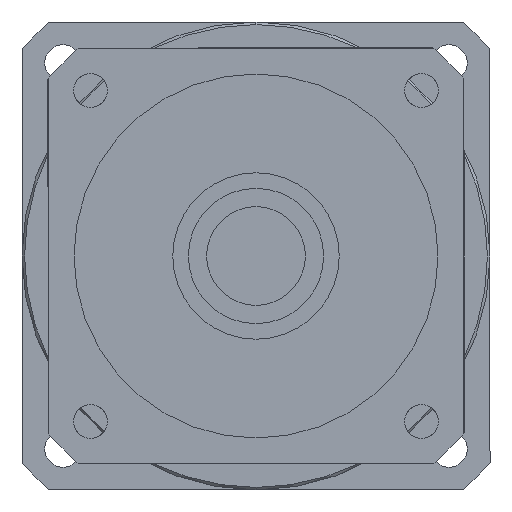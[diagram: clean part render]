
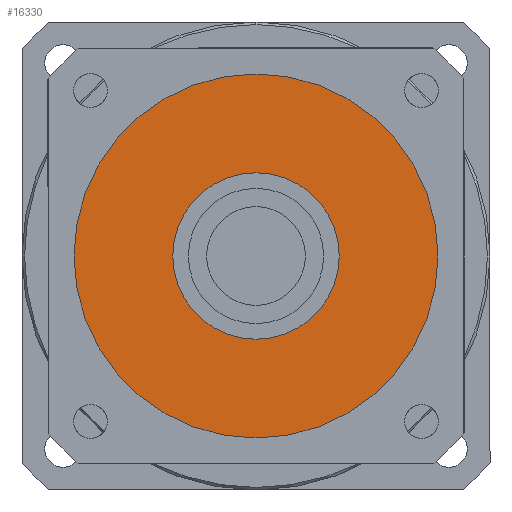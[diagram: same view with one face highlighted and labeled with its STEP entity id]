
A CAD part, left-side view. The second image highlights one B-rep face of the part: STEP entity #16330.
In plain terms, the highlighted planar face has unit normal (-1, 0, 0) as drawn and (0, 0, -1) by its records, which use the part's own axes.
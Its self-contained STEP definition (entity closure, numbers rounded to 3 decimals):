
#15900=CARTESIAN_POINT('',(0.,0.,
-113.5));
#15910=DIRECTION('',(0.,0.,1.));
#15920=DIRECTION('',(-1.,0.,0.));
#15930=AXIS2_PLACEMENT_3D('',#15900,#15910,#15920);
#15940=PLANE('',#15930);
#15950=CARTESIAN_POINT('',(0.,0.,
-113.5));
#15960=DIRECTION('',(0.,0.,1.));
#15970=DIRECTION('',(0.,-1.,0.));
#15980=AXIS2_PLACEMENT_3D('',#15950,#15960,#15970);
#15990=CIRCLE('',#15980,35.);
#16000=CARTESIAN_POINT('',(0.,-35.,-113.5));
#16010=VERTEX_POINT('',#16000);
#16020=CARTESIAN_POINT('',(35.,0.,-113.5));
#16030=VERTEX_POINT('',#16020);
#16040=EDGE_CURVE('',#16010,#16030,#15990,.T.);
#16050=ORIENTED_EDGE('',*,*,#16040,.F.);
#16060=CARTESIAN_POINT('',(-35.,0.,-113.5));
#16070=VERTEX_POINT('',#16060);
#16080=EDGE_CURVE('',#16030,#16070,#15990,.T.);
#16090=ORIENTED_EDGE('',*,*,#16080,.F.);
#16100=EDGE_CURVE('',#16070,#16010,#15990,.T.);
#16110=ORIENTED_EDGE('',*,*,#16100,.F.);
#16120=EDGE_LOOP('',(#16110,#16090,#16050));
#16130=FACE_OUTER_BOUND('',#16120,.T.);
#16140=CARTESIAN_POINT('',(0.,0.,
-113.5));
#16150=DIRECTION('',(0.,0.,1.));
#16160=DIRECTION('',(0.,-1.,0.));
#16170=AXIS2_PLACEMENT_3D('',#16140,#16150,#16160);
#16180=CIRCLE('',#16170,16.);
#16190=CARTESIAN_POINT('',(16.,0.,-113.5));
#16200=VERTEX_POINT('',#16190);
#16210=CARTESIAN_POINT('',(-16.,0.,-113.5));
#16220=VERTEX_POINT('',#16210);
#16230=EDGE_CURVE('',#16200,#16220,#16180,.T.);
#16240=ORIENTED_EDGE('',*,*,#16230,.T.);
#16250=CARTESIAN_POINT('',(0.,-16.,-113.5));
#16260=VERTEX_POINT('',#16250);
#16270=EDGE_CURVE('',#16260,#16200,#16180,.T.);
#16280=ORIENTED_EDGE('',*,*,#16270,.T.);
#16290=EDGE_CURVE('',#16220,#16260,#16180,.T.);
#16300=ORIENTED_EDGE('',*,*,#16290,.T.);
#16310=EDGE_LOOP('',(#16300,#16280,#16240));
#16320=FACE_BOUND('',#16310,.T.);
#16330=ADVANCED_FACE('',(#16130,#16320),#15940,.F.);
